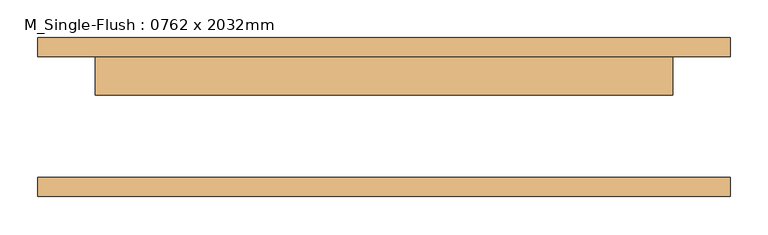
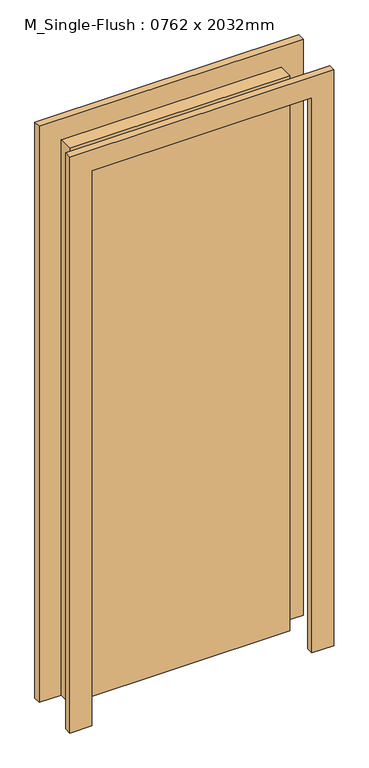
"""IFC4 building model written with IfcOpenShell, lengths in millimetres: door geometry, M_Single-Flush : 0762 x 2032mm."""

from ifc_helpers import new_model, si_unit, frame, origin, origin_with_axes, place, context, project, spatial, polyline, outline, extrude, source, transform, mapped, element, save


def m_single_flush_0762_x_2032mm_f33351b3(model_context):
    return source(origin(), model_context, "Body", "SweptSolid", [
        extrude(outline(polyline([(2108.0, -457.0), (0.0, -457.0), (0.0, -381.0), (2032.0, -381.0), (2032.0, 381.0), (0.0, 381.0), (0.0, 457.0), (2108.0, 457.0), (2108.0, -457.0)])), frame((0.0, 80.0, 0.0), z_axis=(0.0, 1.0, 0.0), x_axis=(0.0, 0.0, 1.0)), (0.0, 0.0, 1.0), 25.0),
        extrude(outline(polyline([(2108.0, 457.0), (2108.0, -457.0), (0.0, -457.0), (0.0, -381.0), (2032.0, -381.0), (2032.0, 381.0), (0.0, 381.0), (0.0, 457.0), (2108.0, 457.0)])), frame((0.0, -105.0, 0.0), z_axis=(0.0, 1.0, 0.0), x_axis=(0.0, 0.0, 1.0)), (0.0, 0.0, 1.0), 25.0),
        extrude(outline(polyline([(381.0, 29.0), (-381.0, 29.0), (-381.0, 80.0), (381.0, 80.0), (381.0, 29.0)])), origin_with_axes(), (0.0, 0.0, 1.0), 2032.0),
    ])


if __name__ == "__main__":
    model = new_model("IFC4")
    model_context = context("Model", 3, world=origin())
    ifc_project = project(units=[si_unit("LENGTHUNIT", "METRE", prefix="MILLI")], contexts=[model_context])
    site = spatial("IfcSite", under=ifc_project)
    building = spatial("IfcBuilding", under=site)
    placement = place(None, origin())
    m_single_flush_0762_x_2032mm_shape = m_single_flush_0762_x_2032mm_f33351b3(model_context)
    element("IfcDoor", 1, ObjectType="M_Single-Flush : 0762 x 2032mm", at=placement, inside=building, context=model_context, shape_type="MappedRepresentation", body=[
        mapped(m_single_flush_0762_x_2032mm_shape, transform((0.0, 0.0, 0.0), x_axis=(1.0, 0.0, 0.0), y_axis=(0.0, 1.0, 0.0), z_axis=(0.0, 0.0, 1.0))),
    ])
    save(model, "model.ifc")
